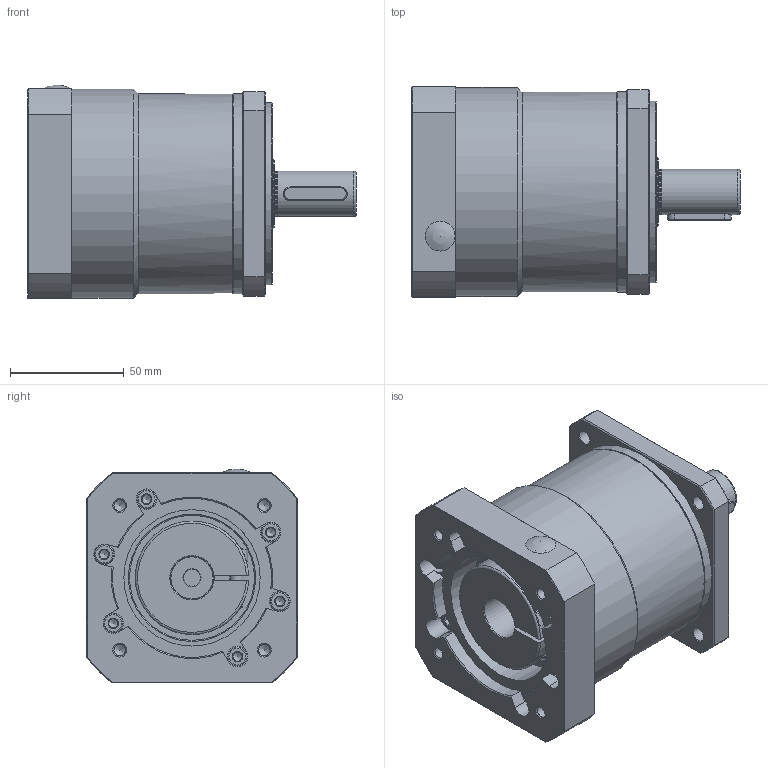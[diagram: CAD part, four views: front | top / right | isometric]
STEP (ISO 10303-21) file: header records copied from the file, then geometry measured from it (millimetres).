
FILE_DESCRIPTION(/* description */ (''),/* implementation_level */ '2;1');
FILE_NAME(/* name */ 'ASM00000286_A0_B9066.0010.100-01-高精密行星减速机-Ф19_45-Ф70_6-Ф90_M6-_90-GPBS090-10.stp',/* time_stamp */ '2025-03-20T11:25:09+08:00',/* author */ (''),/* organization */ (''),/* preprocessor_version */ 'ST-DEVELOPER v18.102',/* originating_system */ 'SIEMENS PLM Software NX 2027',/* authorisation */ '');
FILE_SCHEMA (('AUTOMOTIVE_DESIGN { 1 0 10303 214 3 1 1 1 }'));
Length unit declared in the file: millimetre
Products named in the file (1): A0_objects
Bounding box: 144.5 x 92.5 x 94.1 mm (x, y, z)
Volume: 677131.4 mm3; surface area: 74884.7 mm2
Topology: 1 solids, 2 shells, 389 faces, 905 edges, 542 vertices
Faces by surface type: plane 195, cone 100, cylinder 71, torus 18, bspline 4, sphere 1
Full cylindrical faces by diameter (mm): 5 x5, 5.795 x1, 6.4 x1, 6.5 x4, 6.6 x1, 7.9 x1, 8 x1, 8.5 x6, 9 x6, 9.5 x1, 10 x1, 10.2 x1, 19 x1, 19.5 x1, 19.8 x1, 20 x2, 30 x1, 40 x1, 47 x1, 54.999 x1, 55 x1, 60 x1, 65 x1, 80 x1, 88 x2, 92 x1
Entity records: 10436 total; most frequent: CARTESIAN_POINT 2312, DIRECTION 1712, ORIENTED_EDGE 1500, EDGE_CURVE 750, AXIS2_PLACEMENT_3D 695, EDGE_LOOP 531, VERTEX_POINT 497, ADVANCED_FACE 388
